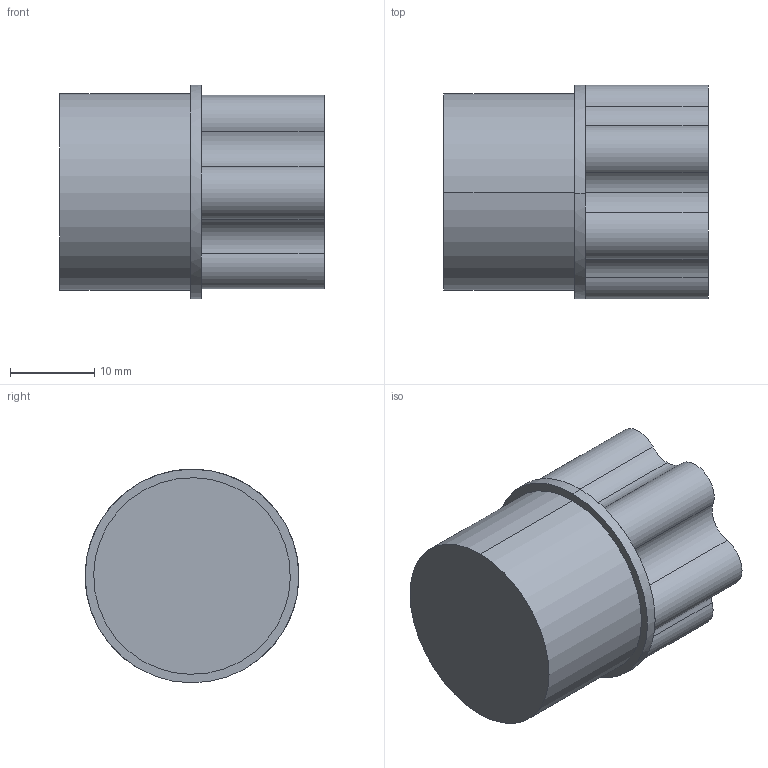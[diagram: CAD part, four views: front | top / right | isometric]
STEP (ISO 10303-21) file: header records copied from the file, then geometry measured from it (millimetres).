
FILE_DESCRIPTION (( 'STEP AP214' ), '1' );
FILE_NAME ('Fitting Synchro-Flare 06.STEP', '2012-09-26T17:49:16', ( '' ), ( '' ), 'SwSTEP 2.0', 'SolidWorks 2012', '' );
FILE_SCHEMA (( 'AUTOMOTIVE_DESIGN' ));
Length unit declared in the file: inch
Products named in the file (1): Fitting Synchro-Flare 06
Bounding box: 31.42 x 25.4 x 25.4 mm (x, y, z)
Volume: 12606.3 mm3; surface area: 3643.1 mm2
Topology: 1 solids, 1 shells, 31 faces, 75 edges, 48 vertices
Faces by surface type: cylinder 21, plane 10
Entity records: 1014 total; most frequent: DIRECTION 193, CARTESIAN_POINT 155, ORIENTED_EDGE 150, AXIS2_PLACEMENT_3D 86, EDGE_CURVE 75, CIRCLE 54, VERTEX_POINT 48, EDGE_LOOP 33
